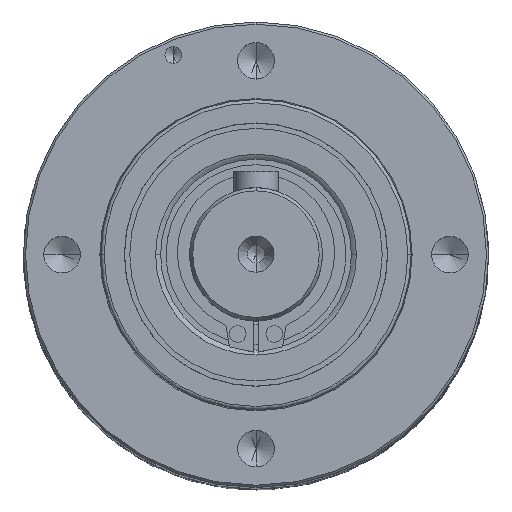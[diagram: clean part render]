
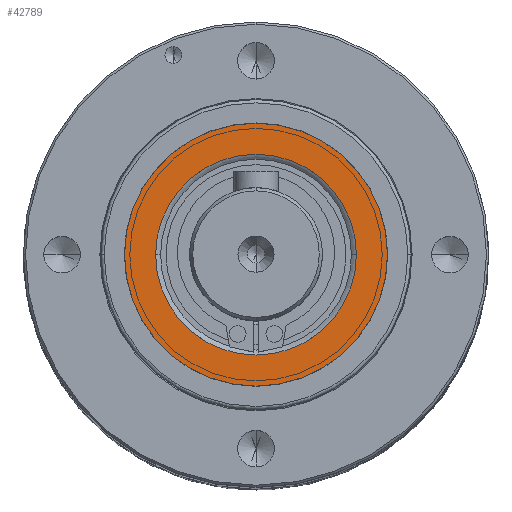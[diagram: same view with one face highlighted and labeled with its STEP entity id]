
A CAD part, top view. The second image highlights one B-rep face of the part: STEP entity #42789.
In plain terms, the highlighted planar face has unit normal (0, 0, 1).
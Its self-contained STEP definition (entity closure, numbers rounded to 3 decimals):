
#4472 = EDGE_CURVE ( 'NONE', #54969, #56989, #70959, .T. ) ;
#5904 = ORIENTED_EDGE ( 'NONE', *, *, #4472, .F. ) ;
#8339 = DIRECTION ( 'NONE',  ( 1., 0., 0. ) ) ;
#8666 = DIRECTION ( 'NONE',  ( 1., 0., 0. ) ) ;
#12082 = FACE_OUTER_BOUND ( 'NONE', #36421, .T. ) ;
#13700 = AXIS2_PLACEMENT_3D ( 'NONE', #46164, #77331, #70584 ) ;
#14620 = DIRECTION ( 'NONE',  ( 0., 0., -1. ) ) ;
#16112 = CIRCLE ( 'NONE', #39068, 11.865 ) ;
#17256 = DIRECTION ( 'NONE',  ( 0., 0., 1. ) ) ;
#21648 = CARTESIAN_POINT ( 'NONE',  ( 16.996, -8.599, 153.185 ) ) ;
#27433 = VERTEX_POINT ( 'NONE', #75414 ) ;
#30171 = ORIENTED_EDGE ( 'NONE', *, *, #67851, .F. ) ;
#30773 = CARTESIAN_POINT ( 'NONE',  ( 5.131, -8.599, 153.185 ) ) ;
#30822 = CARTESIAN_POINT ( 'NONE',  ( 14.191, -8.599, 153.185 ) ) ;
#31174 = DIRECTION ( 'NONE',  ( 1., 0., 0. ) ) ;
#35375 = CIRCLE ( 'NONE', #13700, 9.06 ) ;
#35612 = DIRECTION ( 'NONE',  ( 1., 0., 0. ) ) ;
#36421 = EDGE_LOOP ( 'NONE', ( #30171, #75366 ) ) ;
#36448 = CIRCLE ( 'NONE', #53059, 11.865 ) ;
#37571 = DIRECTION ( 'NONE',  ( 0., 0., 1. ) ) ;
#39047 = DIRECTION ( 'NONE',  ( 0., 0., 1. ) ) ;
#39068 = AXIS2_PLACEMENT_3D ( 'NONE', #57061, #39047, #8339 ) ;
#42789 = ADVANCED_FACE ( 'NONE', ( #43569, #12082 ), #72761, .T. ) ;
#43569 = FACE_BOUND ( 'NONE', #66132, .T. ) ;
#46164 = CARTESIAN_POINT ( 'NONE',  ( 5.131, -8.599, 153.185 ) ) ;
#50984 = CARTESIAN_POINT ( 'NONE',  ( 5.131, -8.599, 153.185 ) ) ;
#53059 = AXIS2_PLACEMENT_3D ( 'NONE', #50984, #14620, #8666 ) ;
#53578 = CARTESIAN_POINT ( 'NONE',  ( -3.929, -8.599, 153.185 ) ) ;
#54547 = EDGE_CURVE ( 'NONE', #54969, #56989, #35375, .T. ) ;
#54969 = VERTEX_POINT ( 'NONE', #30822 ) ;
#56989 = VERTEX_POINT ( 'NONE', #53578 ) ;
#57061 = CARTESIAN_POINT ( 'NONE',  ( 5.131, -8.599, 153.185 ) ) ;
#66132 = EDGE_LOOP ( 'NONE', ( #5904, #68899 ) ) ;
#67851 = EDGE_CURVE ( 'NONE', #71319, #27433, #36448, .T. ) ;
#67977 = AXIS2_PLACEMENT_3D ( 'NONE', #30773, #37571, #31174 ) ;
#68286 = EDGE_CURVE ( 'NONE', #71319, #27433, #16112, .T. ) ;
#68899 = ORIENTED_EDGE ( 'NONE', *, *, #54547, .T. ) ;
#70584 = DIRECTION ( 'NONE',  ( 1., 0., 0. ) ) ;
#70959 = CIRCLE ( 'NONE', #78561, 9.06 ) ;
#71319 = VERTEX_POINT ( 'NONE', #21648 ) ;
#71999 = CARTESIAN_POINT ( 'NONE',  ( 5.131, -8.599, 153.185 ) ) ;
#72761 = PLANE ( 'NONE',  #67977 ) ;
#75366 = ORIENTED_EDGE ( 'NONE', *, *, #68286, .T. ) ;
#75414 = CARTESIAN_POINT ( 'NONE',  ( -6.734, -8.599, 153.185 ) ) ;
#77331 = DIRECTION ( 'NONE',  ( 0., 0., -1. ) ) ;
#78561 = AXIS2_PLACEMENT_3D ( 'NONE', #71999, #17256, #35612 ) ;
